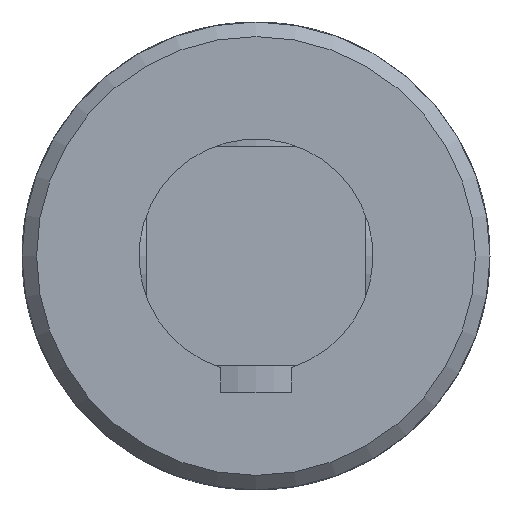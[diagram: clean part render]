
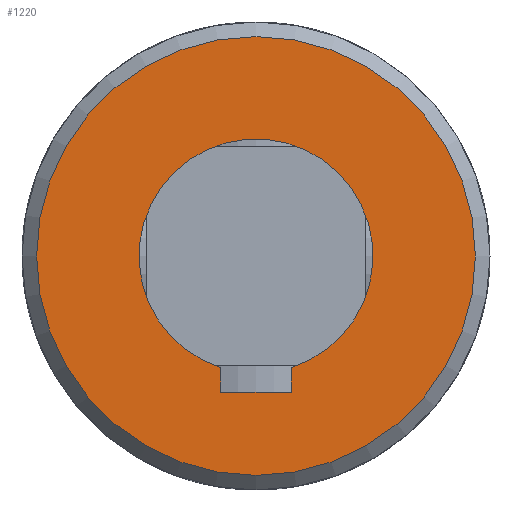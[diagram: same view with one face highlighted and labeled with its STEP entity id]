
A CAD part, front view. The second image highlights one B-rep face of the part: STEP entity #1220.
In plain terms, the highlighted planar face has unit normal (0, -1, 0).
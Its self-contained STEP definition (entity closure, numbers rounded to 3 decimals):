
#137=LINE('',#2212,#184);
#140=LINE('',#2230,#187);
#145=LINE('',#2250,#192);
#184=VECTOR('',#1573,4.221);
#187=VECTOR('',#1584,4.221);
#192=VECTOR('',#1593,12.);
#231=PLANE('',#1343);
#272=FACE_BOUND('',#437,.T.);
#331=FACE_OUTER_BOUND('',#436,.T.);
#436=EDGE_LOOP('',(#1042));
#437=EDGE_LOOP('',(#1043,#1044,#1045,#1046));
#501=CIRCLE('',#1329,20.);
#507=CIRCLE('',#1341,37.5);
#592=VERTEX_POINT('',#2209);
#593=VERTEX_POINT('',#2211);
#596=VERTEX_POINT('',#2221);
#598=VERTEX_POINT('',#2229);
#611=VERTEX_POINT('',#2339);
#735=EDGE_CURVE('',#593,#592,#137,.T.);
#739=EDGE_CURVE('',#596,#593,#501,.T.);
#742=EDGE_CURVE('',#598,#596,#140,.T.);
#750=EDGE_CURVE('',#592,#598,#145,.T.);
#761=EDGE_CURVE('',#611,#611,#507,.T.);
#1042=ORIENTED_EDGE('',*,*,#761,.F.);
#1043=ORIENTED_EDGE('',*,*,#735,.T.);
#1044=ORIENTED_EDGE('',*,*,#750,.T.);
#1045=ORIENTED_EDGE('',*,*,#742,.T.);
#1046=ORIENTED_EDGE('',*,*,#739,.T.);
#1220=ADVANCED_FACE('',(#331,#272),#231,.F.);
#1329=AXIS2_PLACEMENT_3D('',#2222,#1579,#1580);
#1341=AXIS2_PLACEMENT_3D('',#2340,#1610,#1611);
#1343=AXIS2_PLACEMENT_3D('',#2580,#1618,#1619);
#1573=DIRECTION('',(0.,0.,-1.));
#1579=DIRECTION('center_axis',(0.,1.,0.));
#1580=DIRECTION('ref_axis',(-0.3,0.,0.954));
#1584=DIRECTION('',(0.,0.,1.));
#1593=DIRECTION('',(-1.,0.,0.));
#1610=DIRECTION('center_axis',(0.,1.,0.));
#1611=DIRECTION('ref_axis',(1.,0.,0.));
#1618=DIRECTION('center_axis',(0.,1.,0.));
#1619=DIRECTION('ref_axis',(0.,0.,1.));
#2209=CARTESIAN_POINT('',(6.,-99.,-23.3));
#2211=CARTESIAN_POINT('',(6.,-99.,-19.079));
#2212=CARTESIAN_POINT('',(6.,-99.,-9.539));
#2221=CARTESIAN_POINT('',(-6.,-99.,-19.079));
#2222=CARTESIAN_POINT('Origin',(0.,-99.,0.));
#2229=CARTESIAN_POINT('',(-6.,-99.,-23.3));
#2230=CARTESIAN_POINT('',(-6.,-99.,-11.65));
#2250=CARTESIAN_POINT('',(3.,-99.,-23.3));
#2339=CARTESIAN_POINT('',(-37.5,-99.,0.));
#2340=CARTESIAN_POINT('Origin',(0.,-99.,0.));
#2580=CARTESIAN_POINT('Origin',(0.,-99.,0.));
